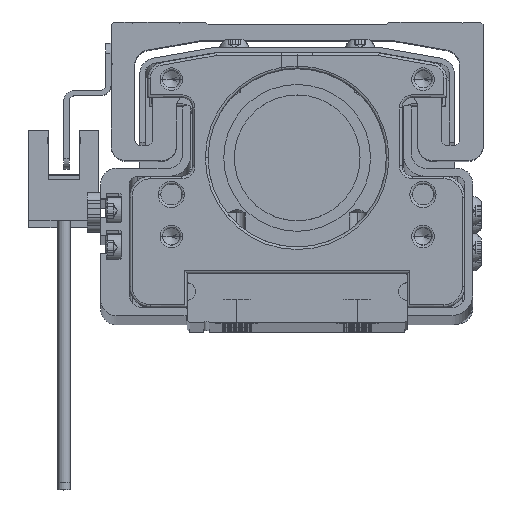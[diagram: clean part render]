
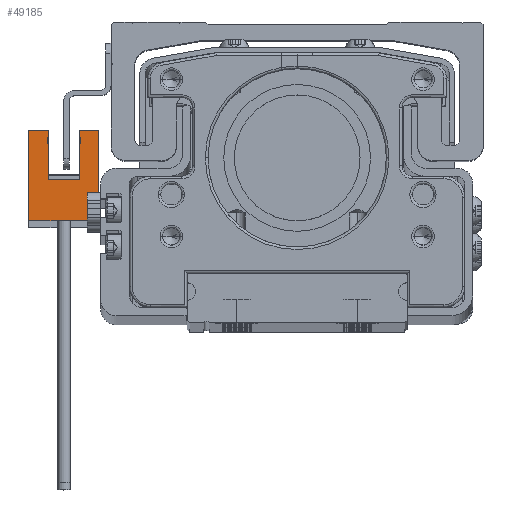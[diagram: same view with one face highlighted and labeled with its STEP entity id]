
A CAD part, top view. The second image highlights one B-rep face of the part: STEP entity #49185.
In plain terms, the highlighted planar face has unit normal (0, 0, 1) as drawn and (-1, 0, 0) by its records, which use the part's own axes.
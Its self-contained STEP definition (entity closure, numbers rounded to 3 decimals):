
#1073 = LINE ( 'NONE', #24954, #23820 ) ;
#2039 = ORIENTED_EDGE ( 'NONE', *, *, #9916, .T. ) ;
#2921 = LINE ( 'NONE', #49100, #49239 ) ;
#4025 = CARTESIAN_POINT ( 'NONE',  ( -3., -15.2, -3.7 ) ) ;
#4395 = VECTOR ( 'NONE', #35552, 1000. ) ;
#4691 = DIRECTION ( 'NONE',  ( 0., 0., 1. ) ) ;
#5021 = ORIENTED_EDGE ( 'NONE', *, *, #26683, .T. ) ;
#5151 = VECTOR ( 'NONE', #41363, 1000. ) ;
#5478 = VECTOR ( 'NONE', #13658, 1000. ) ;
#6058 = DIRECTION ( 'NONE',  ( 0., 0., -1. ) ) ;
#6818 = ORIENTED_EDGE ( 'NONE', *, *, #30018, .T. ) ;
#8342 = ORIENTED_EDGE ( 'NONE', *, *, #8899, .T. ) ;
#8618 = EDGE_CURVE ( 'NONE', #49107, #53928, #17315, .T. ) ;
#8899 = EDGE_CURVE ( 'NONE', #41369, #49107, #16600, .T. ) ;
#9916 = EDGE_CURVE ( 'NONE', #13343, #13639, #28413, .T. ) ;
#13343 = VERTEX_POINT ( 'NONE', #35587 ) ;
#13639 = VERTEX_POINT ( 'NONE', #27703 ) ;
#13646 = CARTESIAN_POINT ( 'NONE',  ( -3., -7.4, -3.7 ) ) ;
#13658 = DIRECTION ( 'NONE',  ( 0., 0., -1. ) ) ;
#16252 = DIRECTION ( 'NONE',  ( 0., 0., 1. ) ) ;
#16600 = LINE ( 'NONE', #33718, #4395 ) ;
#17315 = LINE ( 'NONE', #41570, #5151 ) ;
#17775 = CARTESIAN_POINT ( 'NONE',  ( -3., -9.9, 7.5 ) ) ;
#19010 = LINE ( 'NONE', #13646, #5478 ) ;
#19182 = VERTEX_POINT ( 'NONE', #17775 ) ;
#21714 = DIRECTION ( 'NONE',  ( 0., 0., 1. ) ) ;
#21726 = DIRECTION ( 'NONE',  ( -1., 0., 0. ) ) ;
#21982 = PLANE ( 'NONE',  #37733 ) ;
#22097 = CARTESIAN_POINT ( 'NONE',  ( -3., -7.4, 0. ) ) ;
#22361 = CARTESIAN_POINT ( 'NONE',  ( -3., 2., -3.7 ) ) ;
#23452 = VERTEX_POINT ( 'NONE', #42457 ) ;
#23541 = ORIENTED_EDGE ( 'NONE', *, *, #8618, .T. ) ;
#23771 = CARTESIAN_POINT ( 'NONE',  ( -3., -9.9, 9.7 ) ) ;
#23820 = VECTOR ( 'NONE', #24777, 1000. ) ;
#24077 = VERTEX_POINT ( 'NONE', #22097 ) ;
#24573 = CARTESIAN_POINT ( 'NONE',  ( -3., 2., 9.7 ) ) ;
#24777 = DIRECTION ( 'NONE',  ( 0., -1., 0. ) ) ;
#24954 = CARTESIAN_POINT ( 'NONE',  ( -3., 2., 6. ) ) ;
#25726 = LINE ( 'NONE', #51725, #47967 ) ;
#26683 = EDGE_CURVE ( 'NONE', #47498, #24077, #19010, .T. ) ;
#26717 = FACE_OUTER_BOUND ( 'NONE', #33255, .T. ) ;
#27703 = CARTESIAN_POINT ( 'NONE',  ( -3., -15.2, 7.5 ) ) ;
#28413 = LINE ( 'NONE', #4025, #38930 ) ;
#29176 = ORIENTED_EDGE ( 'NONE', *, *, #36900, .T. ) ;
#29956 = LINE ( 'NONE', #46481, #40393 ) ;
#30018 = EDGE_CURVE ( 'NONE', #13639, #19182, #2921, .T. ) ;
#30436 = DIRECTION ( 'NONE',  ( 0., -1., 0. ) ) ;
#30509 = CARTESIAN_POINT ( 'NONE',  ( -3., 2., -3.7 ) ) ;
#31062 = CARTESIAN_POINT ( 'NONE',  ( -3., 2., 6. ) ) ;
#33255 = EDGE_LOOP ( 'NONE', ( #2039, #6818, #35804, #8342, #23541, #29176, #5021, #51862, #52501, #48448 ) ) ;
#33718 = CARTESIAN_POINT ( 'NONE',  ( -3., 2., 9.7 ) ) ;
#33861 = VECTOR ( 'NONE', #30436, 1000. ) ;
#35226 = VECTOR ( 'NONE', #56000, 1000. ) ;
#35552 = DIRECTION ( 'NONE',  ( 0., 1., 0. ) ) ;
#35587 = CARTESIAN_POINT ( 'NONE',  ( -3., -15.2, -3.7 ) ) ;
#35804 = ORIENTED_EDGE ( 'NONE', *, *, #52634, .T. ) ;
#36177 = EDGE_CURVE ( 'NONE', #24077, #40900, #48231, .T. ) ;
#36900 = EDGE_CURVE ( 'NONE', #53928, #47498, #1073, .T. ) ;
#37733 = AXIS2_PLACEMENT_3D ( 'NONE', #22361, #21726, #21714 ) ;
#38930 = VECTOR ( 'NONE', #4691, 1000. ) ;
#39173 = CARTESIAN_POINT ( 'NONE',  ( -3., 2., 0. ) ) ;
#40393 = VECTOR ( 'NONE', #6058, 1000. ) ;
#40900 = VERTEX_POINT ( 'NONE', #39173 ) ;
#41158 = EDGE_CURVE ( 'NONE', #23452, #13343, #56876, .T. ) ;
#41363 = DIRECTION ( 'NONE',  ( 0., 0., -1. ) ) ;
#41369 = VERTEX_POINT ( 'NONE', #23771 ) ;
#41570 = CARTESIAN_POINT ( 'NONE',  ( -3., 2., -3.7 ) ) ;
#42457 = CARTESIAN_POINT ( 'NONE',  ( -3., 2., -3.7 ) ) ;
#42488 = CARTESIAN_POINT ( 'NONE',  ( -3., -7.4, 6. ) ) ;
#46481 = CARTESIAN_POINT ( 'NONE',  ( -3., 2., -3.7 ) ) ;
#47498 = VERTEX_POINT ( 'NONE', #42488 ) ;
#47967 = VECTOR ( 'NONE', #16252, 1000. ) ;
#48176 = DIRECTION ( 'NONE',  ( 0., 1., 0. ) ) ;
#48231 = LINE ( 'NONE', #53891, #35226 ) ;
#48448 = ORIENTED_EDGE ( 'NONE', *, *, #41158, .T. ) ;
#49100 = CARTESIAN_POINT ( 'NONE',  ( -3., -16.1, 7.5 ) ) ;
#49107 = VERTEX_POINT ( 'NONE', #24573 ) ;
#49185 = ADVANCED_FACE ( 'NONE', ( #26717 ), #21982, .T. ) ;
#49239 = VECTOR ( 'NONE', #48176, 1000. ) ;
#51725 = CARTESIAN_POINT ( 'NONE',  ( -3., -9.9, -3.7 ) ) ;
#51862 = ORIENTED_EDGE ( 'NONE', *, *, #36177, .T. ) ;
#52501 = ORIENTED_EDGE ( 'NONE', *, *, #55857, .T. ) ;
#52634 = EDGE_CURVE ( 'NONE', #19182, #41369, #25726, .T. ) ;
#53891 = CARTESIAN_POINT ( 'NONE',  ( -3., 2., 0. ) ) ;
#53928 = VERTEX_POINT ( 'NONE', #31062 ) ;
#55857 = EDGE_CURVE ( 'NONE', #40900, #23452, #29956, .T. ) ;
#56000 = DIRECTION ( 'NONE',  ( 0., 1., 0. ) ) ;
#56876 = LINE ( 'NONE', #30509, #33861 ) ;
